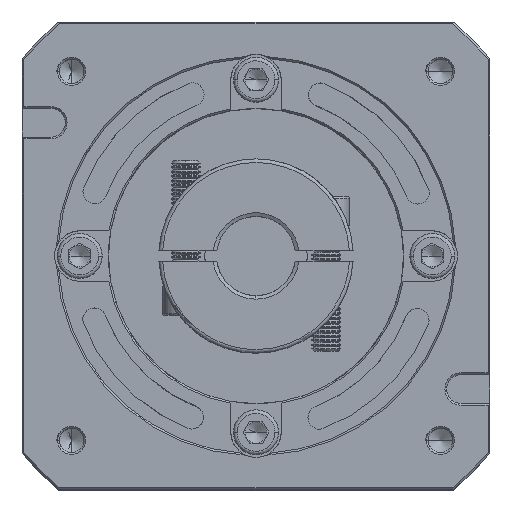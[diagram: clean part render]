
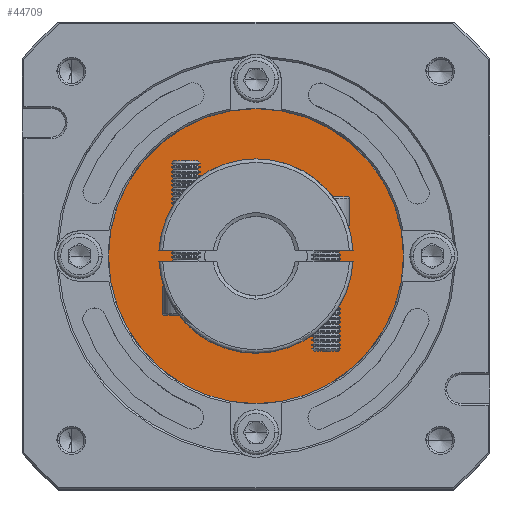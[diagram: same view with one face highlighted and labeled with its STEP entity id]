
A CAD part, top view. The second image highlights one B-rep face of the part: STEP entity #44709.
In plain terms, the highlighted planar face has unit normal (0, 0, 1).
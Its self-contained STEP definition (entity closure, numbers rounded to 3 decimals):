
#4576 = AXIS2_PLACEMENT_3D ( 'NONE', #85560, #104848, #58795 ) ;
#8149 = EDGE_CURVE ( 'NONE', #99043, #79411, #17149, .T. ) ;
#12323 = ORIENTED_EDGE ( 'NONE', *, *, #17896, .T. ) ;
#15654 = AXIS2_PLACEMENT_3D ( 'NONE', #19446, #83588, #19849 ) ;
#17149 = CIRCLE ( 'NONE', #68003, 20. ) ;
#17896 = EDGE_CURVE ( 'NONE', #80615, #104080, #42810, .T. ) ;
#19446 = CARTESIAN_POINT ( 'NONE',  ( 57.277, 125.912, -40.932 ) ) ;
#19849 = DIRECTION ( 'NONE',  ( 1., 0., 0. ) ) ;
#21534 = ORIENTED_EDGE ( 'NONE', *, *, #44471, .T. ) ;
#23100 = EDGE_LOOP ( 'NONE', ( #48310, #21534 ) ) ;
#25584 = FACE_OUTER_BOUND ( 'NONE', #106928, .T. ) ;
#32784 = DIRECTION ( 'NONE',  ( 1., 0., 0. ) ) ;
#42810 = CIRCLE ( 'NONE', #96380, 41. ) ;
#43018 = CARTESIAN_POINT ( 'NONE',  ( 37.277, 125.912, -40.932 ) ) ;
#44471 = EDGE_CURVE ( 'NONE', #79411, #99043, #72981, .T. ) ;
#44709 = ADVANCED_FACE ( 'NONE', ( #25584, #103035 ), #98899, .T. ) ;
#45838 = CARTESIAN_POINT ( 'NONE',  ( 77.277, 125.912, -40.932 ) ) ;
#48272 = CARTESIAN_POINT ( 'NONE',  ( 16.277, 125.912, -40.932 ) ) ;
#48310 = ORIENTED_EDGE ( 'NONE', *, *, #8149, .T. ) ;
#54233 = EDGE_CURVE ( 'NONE', #104080, #80615, #60735, .T. ) ;
#58795 = DIRECTION ( 'NONE',  ( 1., 0., 0. ) ) ;
#60735 = CIRCLE ( 'NONE', #4576, 41. ) ;
#64981 = CARTESIAN_POINT ( 'NONE',  ( 57.277, 125.912, -40.932 ) ) ;
#66875 = DIRECTION ( 'NONE',  ( 0., 0., 1. ) ) ;
#68003 = AXIS2_PLACEMENT_3D ( 'NONE', #64981, #110257, #119027 ) ;
#72981 = CIRCLE ( 'NONE', #118559, 20. ) ;
#73905 = CARTESIAN_POINT ( 'NONE',  ( 98.277, 125.912, -40.932 ) ) ;
#74513 = CARTESIAN_POINT ( 'NONE',  ( 57.277, 125.912, -40.932 ) ) ;
#79411 = VERTEX_POINT ( 'NONE', #43018 ) ;
#80052 = DIRECTION ( 'NONE',  ( 0., 0., -1. ) ) ;
#80615 = VERTEX_POINT ( 'NONE', #73905 ) ;
#83588 = DIRECTION ( 'NONE',  ( 0., 0., 1. ) ) ;
#84458 = ORIENTED_EDGE ( 'NONE', *, *, #54233, .T. ) ;
#84487 = DIRECTION ( 'NONE',  ( 1., 0., 0. ) ) ;
#85560 = CARTESIAN_POINT ( 'NONE',  ( 57.277, 125.912, -40.932 ) ) ;
#96380 = AXIS2_PLACEMENT_3D ( 'NONE', #74513, #66875, #84487 ) ;
#98899 = PLANE ( 'NONE',  #15654 ) ;
#99043 = VERTEX_POINT ( 'NONE', #45838 ) ;
#103035 = FACE_BOUND ( 'NONE', #23100, .T. ) ;
#104080 = VERTEX_POINT ( 'NONE', #48272 ) ;
#104848 = DIRECTION ( 'NONE',  ( 0., 0., 1. ) ) ;
#106928 = EDGE_LOOP ( 'NONE', ( #12323, #84458 ) ) ;
#110257 = DIRECTION ( 'NONE',  ( 0., 0., -1. ) ) ;
#115699 = CARTESIAN_POINT ( 'NONE',  ( 57.277, 125.912, -40.932 ) ) ;
#118559 = AXIS2_PLACEMENT_3D ( 'NONE', #115699, #80052, #32784 ) ;
#119027 = DIRECTION ( 'NONE',  ( 1., 0., 0. ) ) ;
